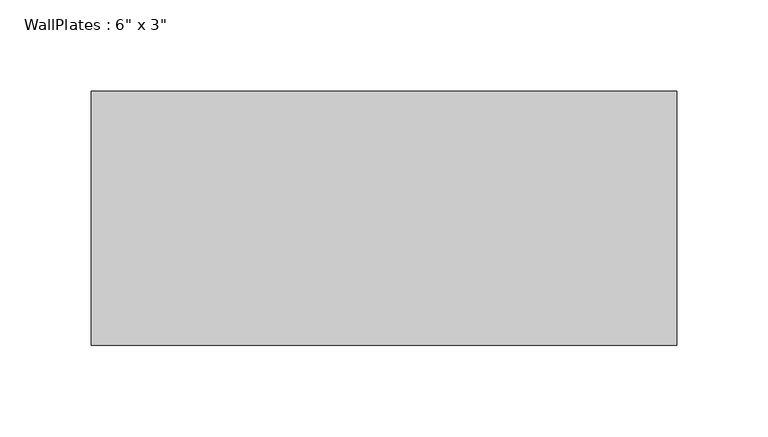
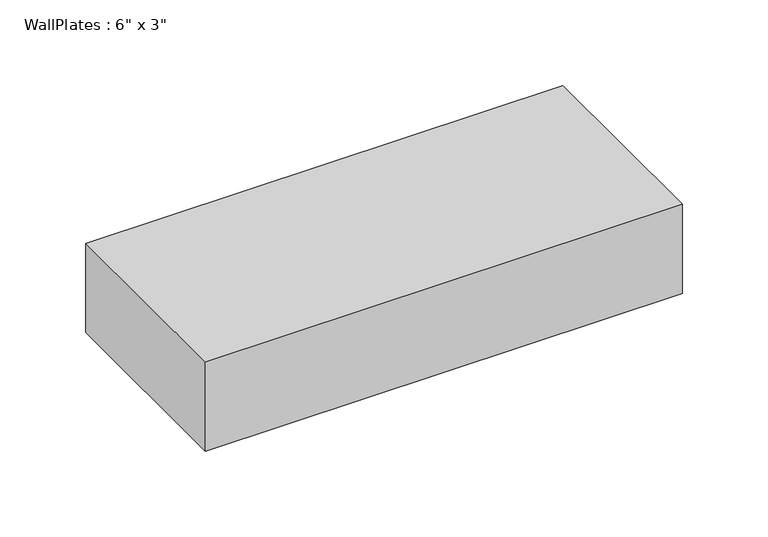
"""IFC4 building model written with IfcOpenShell, lengths in millimetres: beam geometry."""

from ifc_helpers import new_model, si_unit, frame, origin, place, context, project, spatial, polyline, outline, extrude, source, transform, mapped, element, save


def beam_1bebb228(model_context):
    return source(origin(), model_context, "Body", "SweptSolid", [
        extrude(outline(polyline([(-160.8616667, -69.85), (-160.8616667, 69.85), (160.8616667, 69.85), (160.8616667, -69.85), (-160.8616667, -69.85)])), frame((0.0, 0.0, -31.75), z_axis=(0.0, 0.0, 1.0), x_axis=(1.0, 0.0, 0.0)), (0.0, 0.0, 1.0), 63.5),
    ])


if __name__ == "__main__":
    model = new_model("IFC4")
    model_context = context("Model", 3, world=origin())
    ifc_project = project(units=[si_unit("LENGTHUNIT", "METRE", prefix="MILLI")], contexts=[model_context])
    site = spatial("IfcSite", under=ifc_project)
    building = spatial("IfcBuilding", under=site)
    placement = place(None, origin())
    beam_shape = beam_1bebb228(model_context)
    element("IfcBeam", 1, ObjectType="WallPlates : 6\" x 3\"", at=placement, inside=building, context=model_context, shape_type="MappedRepresentation", body=[
        mapped(beam_shape, transform((0.0, 0.0, 0.0), x_axis=(1.0, 0.0, 0.0), y_axis=(0.0, 1.0, 0.0), z_axis=(0.0, 0.0, 1.0))),
    ])
    save(model, "model.ifc")
